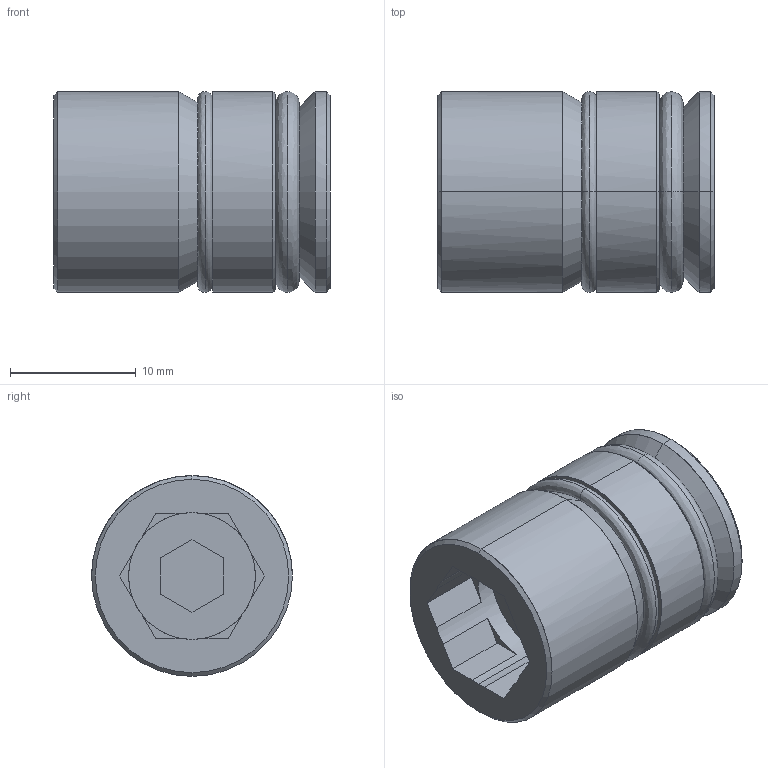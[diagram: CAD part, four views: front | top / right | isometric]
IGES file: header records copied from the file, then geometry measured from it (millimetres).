
Start section: START RECORD GO HERE.
Global section: file name: TRI-16.igs; native system: DASSAULT SYSTEMES CATIA V5 R20 - www.3ds.com; preprocessor: CATIA Version 5 Release 20 ; author: Utente; organization: NB04-ASUS; date: 20210222.201100; units: millimetre
Bounding box: 22 x 16 x 16 mm (x, y, z)
Surface area: 2057.1 mm2 (no closed solid volume)
Topology: 0 solids, 0 shells, 56 faces, 320 edges, 320 vertices
Faces by surface type: plane 30, revolution 26
